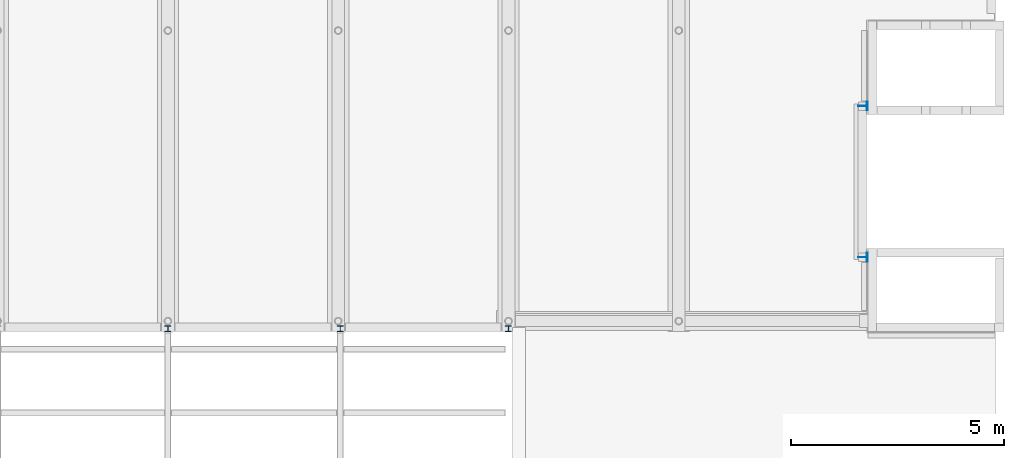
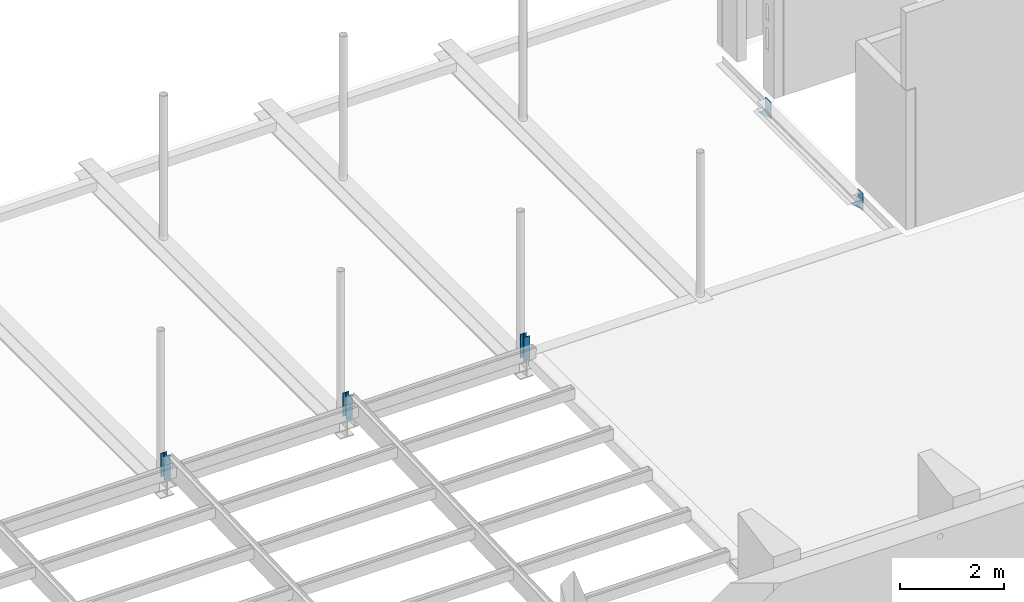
# One storey, part 11 of 31: 7 columns.
"""IFC2X3 building model written with IfcOpenShell, lengths in millimetres."""

import ifcopenshell
import ifcopenshell.guid

model = None  # the IFC model being written
_history = None  # IfcOwnerHistory: only IFC2X3 demands one
_inside = {}  # id of a spatial element -> (the spatial element, [elements in it])
_under = {}  # id of a project, library or spatial element -> (it, [spatial elements below it])
_declared = {}  # id of a project -> (the project, [libraries it declares])
_typed = {}  # id of a type object -> (the type object, [elements of that type])
_made_of = {}  # id of a material, layer set ... -> (it, [elements and type objects made of it])


def new_model(schema):
    """Start an empty IFC model of exactly this schema.

    Asked for "IFC4X3", IfcOpenShell would pick the latest addendum, in which some entities
    have other attributes; the version numbers below select the first issue.
    IFC2X3 requires an IfcOwnerHistory on every rooted entity: one is made here for all.
    """
    global model, _history
    if schema == "IFC4X3":
        model = ifcopenshell.file(schema_version=(4, 3, 0, 0))
    else:
        model = ifcopenshell.file(schema=schema)
    _inside.clear()
    _under.clear()
    _declared.clear()
    _typed.clear()
    _made_of.clear()
    _history = None
    if model.schema == "IFC2X3":
        org = make("IfcOrganization", Name="unknown")
        user = make(
            "IfcPersonAndOrganization",
            ThePerson=make("IfcPerson", FamilyName="unknown"),
            TheOrganization=org,
        )
        app = make(
            "IfcApplication",
            ApplicationDeveloper=org,
            Version="unknown",
            ApplicationFullName="unknown",
            ApplicationIdentifier="unknown",
        )
        _history = make(
            "IfcOwnerHistory",
            OwningUser=user,
            OwningApplication=app,
            ChangeAction="ADDED",
            CreationDate=0,
        )
    return model


def make(cls, **values):
    """One entity of the class cls with the attributes given. An attribute that is None is left unset."""
    return model.create_entity(
        cls, **{name: value for name, value in values.items() if value is not None}
    )


def entity(cls, *values):
    """Any entity or typed value of the class cls, its attributes in the order of the schema. None: left unset."""
    e = model.create_entity(cls)
    for i, value in enumerate(values):
        if value is not None:
            e[i] = value
    return e


def rooted(cls, **values):
    """An entity with a GlobalId (a new one), such as an element, a storey or a relation."""
    return make(cls, GlobalId=ifcopenshell.guid.new(), OwnerHistory=_history, **values)


def si_unit(unit_type, name, prefix=None):
    """IfcSIUnit, for example si_unit("LENGTHUNIT", "METRE", prefix="MILLI")."""
    return make("IfcSIUnit", UnitType=unit_type, Prefix=prefix, Name=name)


def converted_unit(unit_type, name, factor, base, dimensions=None, offset=None):
    """IfcConversionBasedUnit, such as the inch: factor (a typed value) times the base unit."""
    return make(
        "IfcConversionBasedUnit"
        if offset is None
        else "IfcConversionBasedUnitWithOffset",
        ConversionOffset=offset,
        Dimensions=None
        if dimensions is None
        else entity("IfcDimensionalExponents", *dimensions),
        UnitType=unit_type,
        Name=name,
        ConversionFactor=make(
            "IfcMeasureWithUnit", ValueComponent=factor, UnitComponent=base
        ),
    )


def derived_unit(unit_type, elements):
    """IfcDerivedUnit: a product of units, each with its exponent."""
    return make(
        "IfcDerivedUnit",
        Elements=[
            make("IfcDerivedUnitElement", Unit=unit, Exponent=power)
            for unit, power in elements
        ],
        UnitType=unit_type,
    )


def assignment(units):
    """IfcUnitAssignment: the units of a project."""
    return None if units is None else make("IfcUnitAssignment", Units=units)


def point(xyz):
    """IfcCartesianPoint."""
    return None if xyz is None else make("IfcCartesianPoint", Coordinates=xyz)


def direction(xyz):
    """IfcDirection."""
    return None if xyz is None else make("IfcDirection", DirectionRatios=xyz)


def frame(location, z_axis=None, x_axis=None):
    """IfcAxis2Placement3D, a coordinate frame: its origin and axes. An axis left out is left unset."""
    return make(
        "IfcAxis2Placement3D",
        Location=point(location),
        Axis=direction(z_axis),
        RefDirection=direction(x_axis),
    )


def frame_2d(location, x_axis=None):
    """IfcAxis2Placement2D, a coordinate frame in the plane: its origin and x axis."""
    return make(
        "IfcAxis2Placement2D", Location=point(location), RefDirection=direction(x_axis)
    )


def origin():
    """The frame at (0, 0, 0) with its axes left unset."""
    return frame((0.0, 0.0, 0.0))


def origin_2d_with_axis():
    """The frame at (0, 0) in the plane with the x axis (1, 0) written out."""
    return frame_2d((0.0, 0.0), x_axis=(1.0, 0.0))


def place(relative_to, where):
    """IfcLocalPlacement: puts the frame where relative to a parent placement (None: the world)."""
    return make(
        "IfcLocalPlacement", PlacementRelTo=relative_to, RelativePlacement=where
    )


def context(
    kind, dimensions, precision=None, world=None, true_north=None, identifier=None
):
    """IfcGeometricRepresentationContext, for example the 3D "Model" context."""
    return make(
        "IfcGeometricRepresentationContext",
        ContextIdentifier=identifier,
        ContextType=kind,
        CoordinateSpaceDimension=dimensions,
        Precision=precision,
        WorldCoordinateSystem=world,
        TrueNorth=true_north,
    )


def subcontext(parent, identifier, kind, view, scale=None):
    """IfcGeometricRepresentationSubContext, for example "Body" below "Model"."""
    return make(
        "IfcGeometricRepresentationSubContext",
        ContextIdentifier=identifier,
        ContextType=kind,
        ParentContext=parent,
        TargetScale=scale,
        TargetView=view,
    )


def project(units=None, contexts=None):
    """IfcProject with its units and contexts."""
    return rooted(
        "IfcProject",
        Name="project",
        RepresentationContexts=contexts,
        UnitsInContext=assignment(units),
    )


def spatial(cls, under=None, at=None, **own):
    """A site, building, storey or space (cls), placed at a placement, below another one or the project."""
    s = rooted(cls, ObjectPlacement=at, **own)
    if under is not None:
        _under.setdefault(under.id(), (under, []))[1].append(s)
    return s


def profile(cls, at=None, kind="AREA", **sizes):
    """A parametric profile (cls). Its sizes go by their IFC names, for example OverallWidth=200.0."""
    return make(cls, ProfileType=kind, Position=at, **sizes)


def rectangle(**sizes):
    """IfcRectangleProfileDef."""
    return profile("IfcRectangleProfileDef", **sizes)


def i_section(**sizes):
    """IfcIShapeProfileDef."""
    return profile("IfcIShapeProfileDef", **sizes)


def extrude(swept, where, along, depth):
    """IfcExtrudedAreaSolid: the profile swept, set in the frame where, extruded along a direction by depth."""
    return make(
        "IfcExtrudedAreaSolid",
        SweptArea=swept,
        Position=where,
        ExtrudedDirection=direction(along),
        Depth=depth,
    )


def clip(a, b, op="DIFFERENCE"):
    """IfcBooleanClippingResult: the solid a cut by the half space b."""
    return make(
        "IfcBooleanClippingResult", Operator=op, FirstOperand=a, SecondOperand=b
    )


def halfspace(plane, agree):
    """IfcHalfSpaceSolid: all space on one side of the plane z = 0 of the frame plane."""
    return make(
        "IfcHalfSpaceSolid",
        BaseSurface=make("IfcPlane", Position=plane),
        AgreementFlag=agree,
    )


def shape(context_of_items, identifier, shape_type, items):
    """IfcShapeRepresentation: the items that make up one representation, for example the "Body"."""
    return make(
        "IfcShapeRepresentation",
        ContextOfItems=context_of_items,
        RepresentationIdentifier=identifier,
        RepresentationType=shape_type,
        Items=items,
    )


def source(mapping_origin, context_of_items, identifier, shape_type, items):
    """IfcRepresentationMap: a shape defined once, which mapped items show again and again."""
    return make(
        "IfcRepresentationMap",
        MappingOrigin=mapping_origin,
        MappedRepresentation=shape(context_of_items, identifier, shape_type, items),
    )


def transform(
    local_origin,
    x_axis=None,
    y_axis=None,
    z_axis=None,
    scale=None,
    scale2=None,
    scale3=None,
    uniform=True,
):
    """IfcCartesianTransformationOperator3D, or its non-uniform kind. x_axis, y_axis, z_axis: its Axis1, 2, 3."""
    if uniform:
        return make(
            "IfcCartesianTransformationOperator3D",
            Axis1=direction(x_axis),
            Axis2=direction(y_axis),
            LocalOrigin=point(local_origin),
            Scale=scale,
            Axis3=direction(z_axis),
        )
    return make(
        "IfcCartesianTransformationOperator3DnonUniform",
        Axis1=direction(x_axis),
        Axis2=direction(y_axis),
        LocalOrigin=point(local_origin),
        Scale=scale,
        Axis3=direction(z_axis),
        Scale2=scale2,
        Scale3=scale3,
    )


def mapped(mapping_source, mapping_target):
    """IfcMappedItem: shows the shape of a source again, moved by a transform."""
    return make(
        "IfcMappedItem", MappingSource=mapping_source, MappingTarget=mapping_target
    )


def material(Name=None, Category=None):
    """IfcMaterial."""
    return make("IfcMaterial", Name=Name, Category=Category)


def made_of(thing, what):
    """Note that an element or type object is made of a material, layer set ...; save() writes the relation."""
    if what is not None:
        _made_of.setdefault(what.id(), (what, []))[1].append(thing)
    return thing


def type_object(cls, material=None, **own):
    """A type object (cls), such as IfcWallType, which elements share."""
    return made_of(rooted(cls, **own), material)


def type_shapes(of_type, sources):
    """Give a type object the sources (RepresentationMaps) that its elements show as mapped items."""
    of_type.RepresentationMaps = sources


def element(
    cls,
    number,
    at=None,
    inside=None,
    cuts=None,
    type_object=None,
    material=None,
    context=None,
    identifier="Body",
    shape_type=None,
    held_by="IfcProductDefinitionShape",
    body=None,
    shapes=None,
    **own,
):
    """One element of the class cls, such as IfcWall. Its Tag is "e" and its number.

    at: its placement. inside: the storey or other place that contains it. cuts: it is an
    opening in that element (IfcRelVoidsElement). A single representation is given by context,
    identifier, shape_type and body (its items); several are given by shapes. held_by: the class
    of the entity that holds the representations. save() writes the other relations.
    """
    e = rooted(cls, Tag="e%d" % number, ObjectPlacement=at, **own)
    if body is not None:
        shapes = [shape(context, identifier, shape_type, body)]
    if shapes is not None:
        e.Representation = make(held_by, Representations=shapes)
    if inside is not None:
        _inside.setdefault(inside.id(), (inside, []))[1].append(e)
    if cuts is not None:
        rooted(
            "IfcRelVoidsElement", RelatingBuildingElement=cuts, RelatedOpeningElement=e
        )
    if type_object is not None:
        _typed.setdefault(type_object.id(), (type_object, []))[1].append(e)
    return made_of(e, material)


def aggregate(whole, parts):
    """IfcRelAggregates: a whole, such as a stair, and the parts it consists of."""
    return rooted("IfcRelAggregates", RelatingObject=whole, RelatedObjects=parts)


def save(model, path):
    """Write the relations noted so far, then the file.

    IfcRelAggregates (storeys below a building ...), IfcRelContainedInSpatialStructure (elements
    in a storey), IfcRelDefinesByType, IfcRelAssociatesMaterial and IfcRelDeclares: one each for
    every whole, place, type object, material and project.
    """
    for whole, parts in _under.values():
        aggregate(whole, parts)
    for where, things in _inside.values():
        rooted(
            "IfcRelContainedInSpatialStructure",
            RelatedElements=things,
            RelatingStructure=where,
        )
    for kind, things in _typed.values():
        rooted("IfcRelDefinesByType", RelatedObjects=things, RelatingType=kind)
    for what, things in _made_of.values():
        rooted("IfcRelAssociatesMaterial", RelatedObjects=things, RelatingMaterial=what)
    for by, libraries in _declared.values():
        rooted("IfcRelDeclares", RelatingContext=by, RelatedDefinitions=libraries)
    model.write(path)


model = new_model("IFC2X3")

# Units and contexts
model_context = context("Model", 3, precision=0.01, world=origin(), true_north=direction((6.12303176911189e-17, 1.0)))
body_context = subcontext(model_context, "Body", "Model", "MODEL_VIEW")
ifc_project = project(units=[si_unit("LENGTHUNIT", "METRE", prefix="MILLI"), si_unit("AREAUNIT", "SQUARE_METRE"), si_unit("VOLUMEUNIT", "CUBIC_METRE"), converted_unit("PLANEANGLEUNIT", "DEGREE", entity("IfcRatioMeasure", 0.0174532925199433), si_unit("PLANEANGLEUNIT", "RADIAN"), dimensions=[0, 0, 0, 0, 0, 0, 0]), si_unit("MASSUNIT", "GRAM", prefix="KILO"), derived_unit("MASSDENSITYUNIT", [(si_unit("MASSUNIT", "GRAM", prefix="KILO"), 1), (si_unit("LENGTHUNIT", "METRE"), -3)]), si_unit("TIMEUNIT", "SECOND"), si_unit("FREQUENCYUNIT", "HERTZ"), si_unit("THERMODYNAMICTEMPERATUREUNIT", "DEGREE_CELSIUS"), derived_unit("THERMALTRANSMITTANCEUNIT", [(si_unit("MASSUNIT", "GRAM", prefix="KILO"), 1), (si_unit("THERMODYNAMICTEMPERATUREUNIT", "KELVIN"), -1), (si_unit("TIMEUNIT", "SECOND"), -3)]), derived_unit("VOLUMETRICFLOWRATEUNIT", [(si_unit("LENGTHUNIT", "METRE"), 3), (si_unit("TIMEUNIT", "SECOND"), -1)]), si_unit("ELECTRICCURRENTUNIT", "AMPERE"), si_unit("ELECTRICVOLTAGEUNIT", "VOLT"), si_unit("POWERUNIT", "WATT"), si_unit("FORCEUNIT", "NEWTON", prefix="KILO"), si_unit("ILLUMINANCEUNIT", "LUX"), si_unit("LUMINOUSFLUXUNIT", "LUMEN"), si_unit("LUMINOUSINTENSITYUNIT", "CANDELA"), derived_unit("USERDEFINED", [(si_unit("MASSUNIT", "GRAM", prefix="KILO"), -1), (si_unit("LENGTHUNIT", "METRE"), -2), (si_unit("TIMEUNIT", "SECOND"), 3), (si_unit("LUMINOUSFLUXUNIT", "LUMEN"), 1)]), derived_unit("LINEARVELOCITYUNIT", [(si_unit("LENGTHUNIT", "METRE"), 1), (si_unit("TIMEUNIT", "SECOND"), -1)]), si_unit("PRESSUREUNIT", "PASCAL"), derived_unit("USERDEFINED", [(si_unit("LENGTHUNIT", "METRE"), -2), (si_unit("MASSUNIT", "GRAM", prefix="KILO"), 1), (si_unit("TIMEUNIT", "SECOND"), -2)])], contexts=[model_context])

# Site, building, storey
site_placement = place(None, origin())
site = spatial("IfcSite", under=ifc_project, at=site_placement, Name="Default", CompositionType="ELEMENT")
building_placement = place(site_placement, origin())
building = spatial("IfcBuilding", under=site, at=building_placement, Name="niet gebruiken", CompositionType="ELEMENT")
storey_placement = place(building_placement, frame((0.0, 0.0, 12000.0)))
storey = spatial("IfcBuildingStorey", under=building, at=storey_placement, Name="03 derde verdieping", CompositionType="ELEMENT", Elevation=12000.0)

# Columns
ifc_material = material(Name="NLRS_h2_staal")
column_type_1 = type_object("IfcColumnType", Name="kolom HEB 140", PredefinedType="COLUMN", material=ifc_material)
shared_shape_1 = source(origin(), body_context, "Body", "SweptSolid", [
    extrude(i_section(OverallWidth=140.0, OverallDepth=139.999999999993, WebThickness=7.00000000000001, FlangeThickness=12.0, FilletRadius=12.0, at=frame_2d((-7.105427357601e-15, 1.79767312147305e-12), x_axis=(0.0, 1.0))), frame((0.0, 0.0, 13355.0), z_axis=(0.0, 0.0, 1.0), x_axis=(0.0, -1.0, 0.0)), (0.0, 0.0, 1.0), 554.999999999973),
])
type_shapes(column_type_1, [shared_shape_1])
for number, where, name in (
    (1, (143750.0, 43320.0, -12000.0), "NLRS_28.11_SCO_TLB_stalen kolom HEB_gen:kolom HEB 140"),
    (2, (147800.0, 43320.0, -12000.0), "NLRS_28.11_SCO_TLB_stalen kolom HEB_gen:kolom HEB 140"),
    (3, (151750.0, 43320.0, -12000.0), "NLRS_28.11_SCO_TLB_stalen kolom HEB_gen:kolom HEB 140"),
):
    element("IfcColumn", number, at=place(storey_placement, frame(where)), inside=storey, type_object=column_type_1, material=ifc_material, Name=name, ObjectType="kolom HEB 140", context=body_context, shape_type="MappedRepresentation", body=[
        mapped(shared_shape_1, transform((0.0, 0.0, 0.0), scale=1.0)),
    ])
column_type_2 = type_object("IfcColumnType", Name="kolom stripstaal RECT_200x20", PredefinedType="COLUMN", material=ifc_material)
shared_shape_2 = source(origin(), body_context, "Body", "SweptSolid", [
    extrude(rectangle(XDim=20.0, YDim=200.0, at=origin_2d_with_axis()), frame((0.0, 0.0, 12925.0), z_axis=(0.0, 0.0, 1.0), x_axis=(0.0, -1.0, 0.0)), (0.0, 0.0, 1.0), 400.0),
])
type_shapes(column_type_2, [shared_shape_2])
for number, where, z_axis, x_axis, name in (
    (4, (160180.0, 48550.0, -12000.0), (0.0, 0.0, 1.0), (0.0, 1.0, 0.0), "NLRS_28.11_SCO_TLB_stalen kolom stripstaal_gen:kolom stripstaal RECT_200x20"),
    (5, (160180.0, 45000.0, -12000.0), (0.0, 0.0, 1.0), (0.0, 1.0, 0.0), "NLRS_28.11_SCO_TLB_stalen kolom stripstaal_gen:kolom stripstaal RECT_200x20"),
):
    element("IfcColumn", number, at=place(storey_placement, frame(where, z_axis=z_axis, x_axis=x_axis)), inside=storey, type_object=column_type_2, material=ifc_material, Name=name, ObjectType="kolom stripstaal RECT_200x20", context=body_context, shape_type="MappedRepresentation", body=[
        mapped(shared_shape_2, transform((0.0, 0.0, 0.0), scale=1.0)),
    ])
column_type_3 = type_object("IfcColumnType", Name="kolom stripstaal RECT_200x10", PredefinedType="COLUMN", material=ifc_material)
shared_shape_3 = source(origin(), body_context, "Body", "Clipping", [
    clip(extrude(rectangle(XDim=9.99999999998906, YDim=199.999999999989, at=origin_2d_with_axis()), frame((160070.0, 48550.0, 12925.0), z_axis=(0.0, 0.0, 1.0), x_axis=(0.0, -1.0, 0.0)), (0.0, 0.0, 1.0), 180.000000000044), halfspace(frame((159970.0, 48750.0, 13095.0), z_axis=(-0.666680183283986, 0.0, -0.745343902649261), x_axis=(0.0, -1.0, 0.0)), False)),
])
type_shapes(column_type_3, [shared_shape_3])
column_1_placement = place(storey_placement, frame((0.0, 0.0, -12000.0)))
element("IfcColumn", 6, at=column_1_placement, inside=storey, type_object=column_type_3, material=ifc_material, Name="NLRS_28.11_SCO_TLB_stalen kolom stripstaal_gen:kolom stripstaal RECT_200x10", ObjectType="kolom stripstaal RECT_200x10", context=body_context, shape_type="MappedRepresentation", body=[
    mapped(shared_shape_3, transform((0.0, 0.0, 0.0), scale=1.0)),
])
column_type_4 = type_object("IfcColumnType", Name="kolom stripstaal RECT_200x10", PredefinedType="COLUMN", material=ifc_material)
shared_shape_4 = source(origin(), body_context, "Body", "Clipping", [
    clip(extrude(rectangle(XDim=9.99999999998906, YDim=199.999999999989, at=origin_2d_with_axis()), frame((160070.0, 45000.0, 12925.0), z_axis=(0.0, 0.0, 1.0), x_axis=(0.0, -1.0, 0.0)), (0.0, 0.0, 1.0), 180.000000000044), halfspace(frame((159970.0, 45200.0, 13095.0), z_axis=(-0.666680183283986, 0.0, -0.745343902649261), x_axis=(0.0, -1.0, 0.0)), False)),
])
type_shapes(column_type_4, [shared_shape_4])
column_2_placement = place(storey_placement, frame((0.0, 0.0, -12000.0)))
element("IfcColumn", 7, at=column_2_placement, inside=storey, type_object=column_type_4, material=ifc_material, Name="NLRS_28.11_SCO_TLB_stalen kolom stripstaal_gen:kolom stripstaal RECT_200x10", ObjectType="kolom stripstaal RECT_200x10", context=body_context, shape_type="MappedRepresentation", body=[
    mapped(shared_shape_4, transform((0.0, 0.0, 0.0), scale=1.0)),
])

save(model, "model.ifc")
